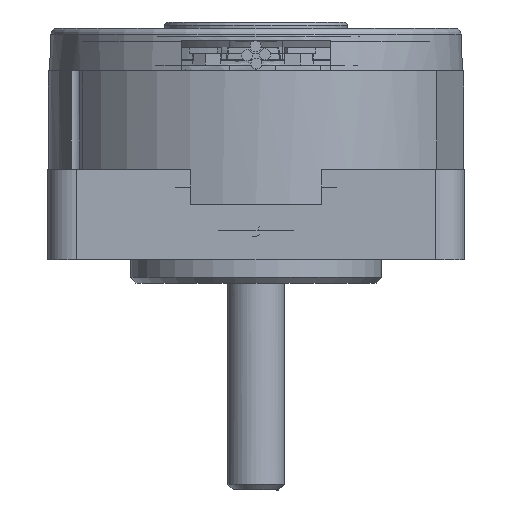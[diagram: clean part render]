
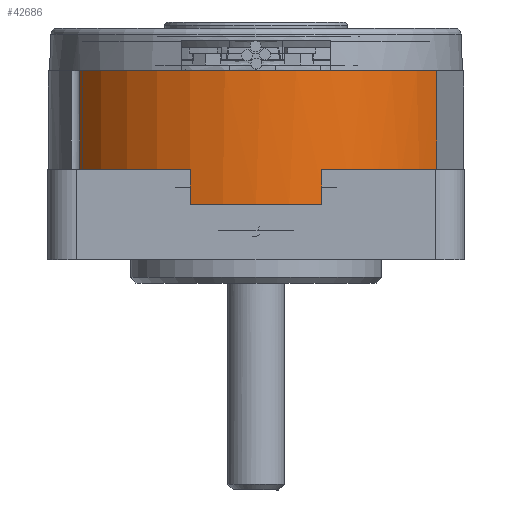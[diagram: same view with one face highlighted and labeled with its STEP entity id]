
A CAD part, front view. The second image highlights one B-rep face of the part: STEP entity #42686.
In plain terms, the highlighted cylindrical face has radius 18.098 mm (diameter 36.195 mm), a partial arc.
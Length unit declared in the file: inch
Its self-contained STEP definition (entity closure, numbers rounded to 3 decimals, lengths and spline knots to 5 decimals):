
#36175=CARTESIAN_POINT('',(0.62051,-0.35017,0.6487));
#36176=VERTEX_POINT('',#36175);
#36183=CARTESIAN_POINT('',(0.62051,-0.35017,0.25));
#36184=VERTEX_POINT('',#36183);
#36185=CARTESIAN_POINT('',(0.62051,-0.35017,0.6487));
#36186=DIRECTION('',(0.0,0.0,-1.0));
#36187=VECTOR('',#36186,0.3987);
#36188=LINE('',#36185,#36187);
#36189=EDGE_CURVE('',#36176,#36184,#36188,.T.);
#42620=CARTESIAN_POINT('',(0.,0.,0.6487));
#42621=DIRECTION('',(0.,0.,-1.0));
#42622=DIRECTION('',(0.871,-0.491,0.));
#42623=AXIS2_PLACEMENT_3D('',#42620,#42621,#42622);
#42624=CYLINDRICAL_SURFACE('',#42623,0.7125);
#42625=CARTESIAN_POINT('',(-0.60493,-0.37646,0.6487));
#42626=VERTEX_POINT('',#42625);
#42627=CARTESIAN_POINT('',(-0.60493,-0.37646,0.25));
#42628=VERTEX_POINT('',#42627);
#42629=CARTESIAN_POINT('',(-0.60493,-0.37646,0.6487));
#42630=DIRECTION('',(0.0,0.0,-1.0));
#42631=VECTOR('',#42630,0.3987);
#42632=LINE('',#42629,#42631);
#42633=EDGE_CURVE('',#42626,#42628,#42632,.T.);
#42634=ORIENTED_EDGE('',*,*,#42633,.T.);
#42635=CARTESIAN_POINT('',(-0.225,-0.67604,0.25));
#42636=VERTEX_POINT('',#42635);
#42637=CARTESIAN_POINT('',(0.,0.,0.25));
#42638=DIRECTION('',(0.,0.,-1.));
#42639=DIRECTION('',(0.871,-0.491,0.));
#42640=AXIS2_PLACEMENT_3D('',#42637,#42638,#42639);
#42641=CIRCLE('',#42640,0.7125);
#42642=EDGE_CURVE('',#42636,#42628,#42641,.T.);
#42643=ORIENTED_EDGE('',*,*,#42642,.F.);
#42644=CARTESIAN_POINT('',(-0.225,-0.67604,0.19));
#42645=VERTEX_POINT('',#42644);
#42646=CARTESIAN_POINT('',(-0.225,-0.67604,0.19));
#42647=DIRECTION('',(0.0,0.0,1.0));
#42648=VECTOR('',#42647,0.06);
#42649=LINE('',#42646,#42648);
#42650=EDGE_CURVE('',#42645,#42636,#42649,.T.);
#42651=ORIENTED_EDGE('',*,*,#42650,.F.);
#42652=CARTESIAN_POINT('',(0.225,-0.67604,0.19));
#42653=VERTEX_POINT('',#42652);
#42654=CARTESIAN_POINT('',(0.,0.,0.19));
#42655=DIRECTION('',(0.,0.,-1.0));
#42656=DIRECTION('',(0.871,-0.491,0.));
#42657=AXIS2_PLACEMENT_3D('',#42654,#42655,#42656);
#42658=CIRCLE('',#42657,0.7125);
#42659=EDGE_CURVE('',#42653,#42645,#42658,.T.);
#42660=ORIENTED_EDGE('',*,*,#42659,.F.);
#42661=CARTESIAN_POINT('',(0.225,-0.67604,0.25));
#42662=VERTEX_POINT('',#42661);
#42663=CARTESIAN_POINT('',(0.225,-0.67604,0.25));
#42664=DIRECTION('',(0.0,0.0,-1.0));
#42665=VECTOR('',#42664,0.06);
#42666=LINE('',#42663,#42665);
#42667=EDGE_CURVE('',#42662,#42653,#42666,.T.);
#42668=ORIENTED_EDGE('',*,*,#42667,.F.);
#42669=CARTESIAN_POINT('',(0.,0.,0.25));
#42670=DIRECTION('',(0.,0.,-1.));
#42671=DIRECTION('',(0.871,-0.491,0.));
#42672=AXIS2_PLACEMENT_3D('',#42669,#42670,#42671);
#42673=CIRCLE('',#42672,0.7125);
#42674=EDGE_CURVE('',#36184,#42662,#42673,.T.);
#42675=ORIENTED_EDGE('',*,*,#42674,.F.);
#42676=ORIENTED_EDGE('',*,*,#36189,.F.);
#42677=CARTESIAN_POINT('',(0.,0.,0.6487));
#42678=DIRECTION('',(0.,0.,-1.));
#42679=DIRECTION('',(0.871,-0.491,0.));
#42680=AXIS2_PLACEMENT_3D('',#42677,#42678,#42679);
#42681=CIRCLE('',#42680,0.7125);
#42682=EDGE_CURVE('',#36176,#42626,#42681,.T.);
#42683=ORIENTED_EDGE('',*,*,#42682,.T.);
#42684=EDGE_LOOP('',(#42634,#42643,#42651,#42660,#42668,#42675,#42676,#42683));
#42685=FACE_OUTER_BOUND('',#42684,.T.);
#42686=ADVANCED_FACE('',(#42685),#42624,.T.);
